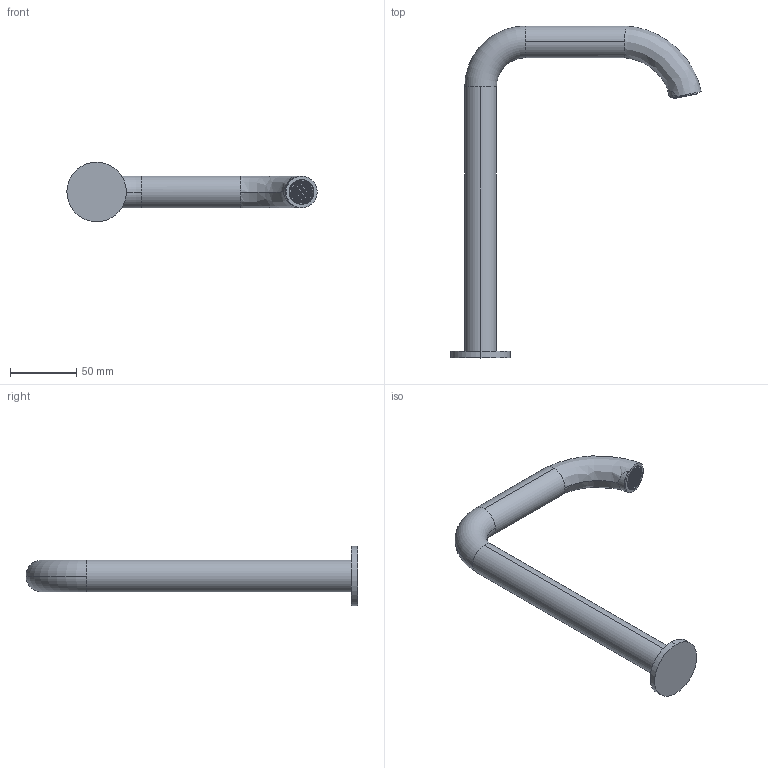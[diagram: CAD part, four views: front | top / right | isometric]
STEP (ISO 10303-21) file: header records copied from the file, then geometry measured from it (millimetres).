
FILE_DESCRIPTION (( 'STEP AP214' ), '1' );
FILE_NAME ('9921Q410 x architetti.STEP', '2024-09-13T07:17:10', ( '' ), ( '' ), 'SwSTEP 2.0', 'SolidWorks 2020', '' );
FILE_SCHEMA (( 'AUTOMOTIVE_DESIGN' ));
Length unit declared in the file: millimetre
Products named in the file (1): 9921Q410 x architetti
Bounding box: 189.26 x 251 x 45 mm (x, y, z)
Volume: 186089.2 mm3; surface area: 34065.3 mm2
Topology: 1 solids, 1 shells, 1308 faces, 3260 edges, 1968 vertices
Faces by surface type: plane 866, cylinder 378, bspline 60, torus 2, cone 2
Entity records: 54772 total; most frequent: CARTESIAN_POINT 13627, ORIENTED_EDGE 6520, DIRECTION 4953, EDGE_CURVE 3260, LINE 2225, VECTOR 2225, VERTEX_POINT 1968, AXIS2_PLACEMENT_3D 1364
